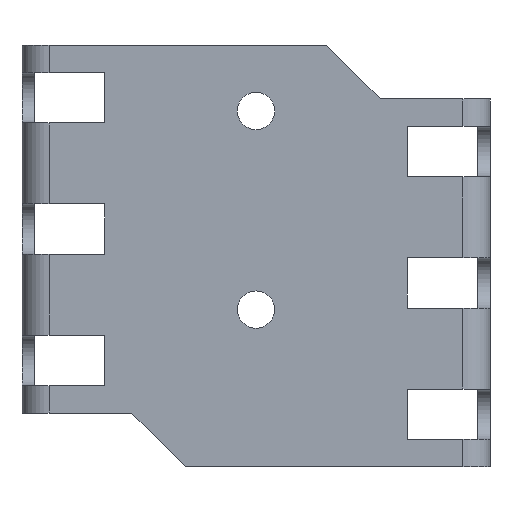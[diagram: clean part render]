
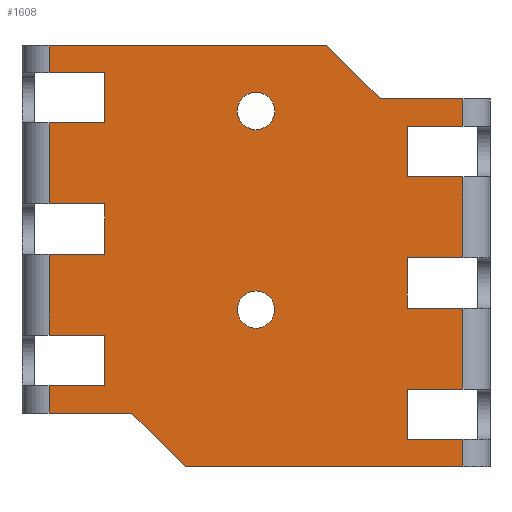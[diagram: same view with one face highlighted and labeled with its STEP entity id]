
A CAD part, left-side view. The second image highlights one B-rep face of the part: STEP entity #1608.
In plain terms, the highlighted planar face has unit normal (-1, 0, 0).
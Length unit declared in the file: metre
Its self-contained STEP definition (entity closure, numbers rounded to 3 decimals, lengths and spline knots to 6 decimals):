
#40=CIRCLE('',#1714,0.00225);
#41=CIRCLE('',#1715,0.00225);
#192=ORIENTED_EDGE('',*,*,#656,.T.);
#193=ORIENTED_EDGE('',*,*,#657,.T.);
#194=ORIENTED_EDGE('',*,*,#658,.F.);
#195=ORIENTED_EDGE('',*,*,#654,.T.);
#196=ORIENTED_EDGE('',*,*,#579,.F.);
#197=ORIENTED_EDGE('',*,*,#582,.F.);
#198=ORIENTED_EDGE('',*,*,#659,.F.);
#199=ORIENTED_EDGE('',*,*,#586,.T.);
#200=ORIENTED_EDGE('',*,*,#589,.F.);
#201=ORIENTED_EDGE('',*,*,#592,.F.);
#202=ORIENTED_EDGE('',*,*,#660,.F.);
#203=ORIENTED_EDGE('',*,*,#596,.F.);
#204=ORIENTED_EDGE('',*,*,#599,.F.);
#205=ORIENTED_EDGE('',*,*,#602,.T.);
#206=ORIENTED_EDGE('',*,*,#661,.T.);
#207=ORIENTED_EDGE('',*,*,#606,.T.);
#208=ORIENTED_EDGE('',*,*,#609,.F.);
#209=ORIENTED_EDGE('',*,*,#612,.F.);
#210=ORIENTED_EDGE('',*,*,#662,.T.);
#211=ORIENTED_EDGE('',*,*,#616,.T.);
#212=ORIENTED_EDGE('',*,*,#619,.F.);
#213=ORIENTED_EDGE('',*,*,#622,.F.);
#214=ORIENTED_EDGE('',*,*,#663,.T.);
#215=ORIENTED_EDGE('',*,*,#626,.T.);
#216=ORIENTED_EDGE('',*,*,#629,.F.);
#217=ORIENTED_EDGE('',*,*,#632,.F.);
#218=ORIENTED_EDGE('',*,*,#664,.T.);
#219=ORIENTED_EDGE('',*,*,#636,.F.);
#220=ORIENTED_EDGE('',*,*,#639,.F.);
#221=ORIENTED_EDGE('',*,*,#642,.F.);
#222=ORIENTED_EDGE('',*,*,#665,.F.);
#223=ORIENTED_EDGE('',*,*,#646,.T.);
#224=ORIENTED_EDGE('',*,*,#649,.F.);
#225=ORIENTED_EDGE('',*,*,#652,.F.);
#579=EDGE_CURVE('',#819,#817,#959,.F.);
#582=EDGE_CURVE('',#821,#819,#962,.T.);
#586=EDGE_CURVE('',#823,#825,#966,.T.);
#589=EDGE_CURVE('',#827,#825,#969,.F.);
#592=EDGE_CURVE('',#829,#827,#972,.T.);
#596=EDGE_CURVE('',#833,#831,#976,.F.);
#599=EDGE_CURVE('',#835,#833,#979,.T.);
#602=EDGE_CURVE('',#835,#837,#982,.T.);
#606=EDGE_CURVE('',#839,#841,#986,.F.);
#609=EDGE_CURVE('',#843,#841,#989,.T.);
#612=EDGE_CURVE('',#845,#843,#992,.F.);
#616=EDGE_CURVE('',#847,#849,#996,.F.);
#619=EDGE_CURVE('',#851,#849,#999,.T.);
#622=EDGE_CURVE('',#853,#851,#1002,.F.);
#626=EDGE_CURVE('',#855,#857,#1006,.F.);
#629=EDGE_CURVE('',#859,#857,#1009,.T.);
#632=EDGE_CURVE('',#861,#859,#1012,.F.);
#636=EDGE_CURVE('',#865,#863,#1016,.T.);
#639=EDGE_CURVE('',#867,#865,#1019,.T.);
#642=EDGE_CURVE('',#869,#867,#1022,.T.);
#646=EDGE_CURVE('',#871,#873,#1026,.T.);
#649=EDGE_CURVE('',#875,#873,#1029,.F.);
#652=EDGE_CURVE('',#877,#875,#1032,.T.);
#654=EDGE_CURVE('',#879,#817,#1034,.T.);
#656=EDGE_CURVE('',#880,#880,#40,.F.);
#657=EDGE_CURVE('',#881,#881,#41,.F.);
#658=EDGE_CURVE('',#879,#877,#1036,.F.);
#659=EDGE_CURVE('',#823,#821,#1037,.F.);
#660=EDGE_CURVE('',#831,#829,#1038,.F.);
#661=EDGE_CURVE('',#837,#839,#1039,.T.);
#662=EDGE_CURVE('',#845,#847,#1040,.T.);
#663=EDGE_CURVE('',#853,#855,#1041,.T.);
#664=EDGE_CURVE('',#861,#863,#1042,.T.);
#665=EDGE_CURVE('',#871,#869,#1043,.F.);
#817=VERTEX_POINT('',#2323);
#819=VERTEX_POINT('',#2327);
#821=VERTEX_POINT('',#2333);
#823=VERTEX_POINT('',#2338);
#825=VERTEX_POINT('',#2342);
#827=VERTEX_POINT('',#2348);
#829=VERTEX_POINT('',#2354);
#831=VERTEX_POINT('',#2359);
#833=VERTEX_POINT('',#2363);
#835=VERTEX_POINT('',#2369);
#837=VERTEX_POINT('',#2375);
#839=VERTEX_POINT('',#2380);
#841=VERTEX_POINT('',#2384);
#843=VERTEX_POINT('',#2390);
#845=VERTEX_POINT('',#2396);
#847=VERTEX_POINT('',#2401);
#849=VERTEX_POINT('',#2405);
#851=VERTEX_POINT('',#2411);
#853=VERTEX_POINT('',#2417);
#855=VERTEX_POINT('',#2422);
#857=VERTEX_POINT('',#2426);
#859=VERTEX_POINT('',#2432);
#861=VERTEX_POINT('',#2438);
#863=VERTEX_POINT('',#2443);
#865=VERTEX_POINT('',#2447);
#867=VERTEX_POINT('',#2453);
#869=VERTEX_POINT('',#2459);
#871=VERTEX_POINT('',#2464);
#873=VERTEX_POINT('',#2468);
#875=VERTEX_POINT('',#2474);
#877=VERTEX_POINT('',#2480);
#879=VERTEX_POINT('',#2486);
#880=VERTEX_POINT('',#2490);
#881=VERTEX_POINT('',#2492);
#959=LINE('',#2328,#1143);
#962=LINE('',#2334,#1146);
#966=LINE('',#2343,#1150);
#969=LINE('',#2349,#1153);
#972=LINE('',#2355,#1156);
#976=LINE('',#2364,#1160);
#979=LINE('',#2370,#1163);
#982=LINE('',#2376,#1166);
#986=LINE('',#2385,#1170);
#989=LINE('',#2391,#1173);
#992=LINE('',#2397,#1176);
#996=LINE('',#2406,#1180);
#999=LINE('',#2412,#1183);
#1002=LINE('',#2418,#1186);
#1006=LINE('',#2427,#1190);
#1009=LINE('',#2433,#1193);
#1012=LINE('',#2439,#1196);
#1016=LINE('',#2448,#1200);
#1019=LINE('',#2454,#1203);
#1022=LINE('',#2460,#1206);
#1026=LINE('',#2469,#1210);
#1029=LINE('',#2475,#1213);
#1032=LINE('',#2481,#1216);
#1034=LINE('',#2485,#1218);
#1036=LINE('',#2493,#1220);
#1037=LINE('',#2494,#1221);
#1038=LINE('',#2495,#1222);
#1039=LINE('',#2496,#1223);
#1040=LINE('',#2497,#1224);
#1041=LINE('',#2498,#1225);
#1042=LINE('',#2499,#1226);
#1043=LINE('',#2500,#1227);
#1143=VECTOR('',#1844,1.);
#1146=VECTOR('',#1849,1.);
#1150=VECTOR('',#1855,1.);
#1153=VECTOR('',#1860,1.);
#1156=VECTOR('',#1865,1.);
#1160=VECTOR('',#1871,1.);
#1163=VECTOR('',#1876,1.);
#1166=VECTOR('',#1881,1.);
#1170=VECTOR('',#1887,1.);
#1173=VECTOR('',#1892,1.);
#1176=VECTOR('',#1897,1.);
#1180=VECTOR('',#1903,1.);
#1183=VECTOR('',#1908,1.);
#1186=VECTOR('',#1913,1.);
#1190=VECTOR('',#1919,1.);
#1193=VECTOR('',#1924,1.);
#1196=VECTOR('',#1929,1.);
#1200=VECTOR('',#1935,1.);
#1203=VECTOR('',#1940,1.);
#1206=VECTOR('',#1945,1.);
#1210=VECTOR('',#1951,1.);
#1213=VECTOR('',#1956,1.);
#1216=VECTOR('',#1961,1.);
#1218=VECTOR('',#1965,1.);
#1220=VECTOR('',#1973,1.);
#1221=VECTOR('',#1974,1.);
#1222=VECTOR('',#1975,1.);
#1223=VECTOR('',#1976,1.);
#1224=VECTOR('',#1977,1.);
#1225=VECTOR('',#1978,1.);
#1226=VECTOR('',#1979,1.);
#1227=VECTOR('',#1980,1.);
#1348=EDGE_LOOP('',(#192));
#1349=EDGE_LOOP('',(#193));
#1350=EDGE_LOOP('',(#194,#195,#196,#197,#198,#199,#200,#201,#202,#203,#204,
#205,#206,#207,#208,#209,#210,#211,#212,#213,#214,#215,#216,#217,#218,#219,
#220,#221,#222,#223,#224,#225));
#1446=FACE_BOUND('',#1348,.T.);
#1447=FACE_BOUND('',#1349,.T.);
#1448=FACE_BOUND('',#1350,.T.);
#1544=PLANE('',#1713);
#1608=ADVANCED_FACE('',(#1446,#1447,#1448),#1544,.T.);
#1713=AXIS2_PLACEMENT_3D('',#2488,#1967,#1968);
#1714=AXIS2_PLACEMENT_3D('',#2489,#1969,#1970);
#1715=AXIS2_PLACEMENT_3D('',#2491,#1971,#1972);
#1844=DIRECTION('',(0.,0.,-1.));
#1849=DIRECTION('',(0.,-1.,0.));
#1855=DIRECTION('',(0.,-1.,0.));
#1860=DIRECTION('',(0.,0.,-1.));
#1865=DIRECTION('',(0.,-1.,0.));
#1871=DIRECTION('',(0.,-1.,0.));
#1876=DIRECTION('',(0.,0.707,0.707));
#1881=DIRECTION('',(0.,-1.,0.));
#1887=DIRECTION('',(0.,-1.,0.));
#1892=DIRECTION('',(0.,0.,-1.));
#1897=DIRECTION('',(0.,-1.,0.));
#1903=DIRECTION('',(0.,-1.,0.));
#1908=DIRECTION('',(0.,0.,-1.));
#1913=DIRECTION('',(0.,-1.,0.));
#1919=DIRECTION('',(0.,-1.,0.));
#1924=DIRECTION('',(0.,0.,-1.));
#1929=DIRECTION('',(0.,-1.,0.));
#1935=DIRECTION('',(0.,-1.,0.));
#1940=DIRECTION('',(0.,-0.707,-0.707));
#1945=DIRECTION('',(0.,-1.,0.));
#1951=DIRECTION('',(0.,-1.,0.));
#1956=DIRECTION('',(0.,0.,-1.));
#1961=DIRECTION('',(0.,-1.,0.));
#1965=DIRECTION('',(0.,-1.,0.));
#1967=DIRECTION('',(-1.,0.,0.));
#1968=DIRECTION('',(0.,0.,-1.));
#1969=DIRECTION('',(-1.,0.,0.));
#1970=DIRECTION('',(0.,0.,1.));
#1971=DIRECTION('',(-1.,0.,0.));
#1972=DIRECTION('',(0.,0.,1.));
#1973=DIRECTION('',(0.,0.,-1.));
#1974=DIRECTION('',(0.,0.,-1.));
#1975=DIRECTION('',(0.,0.,-1.));
#1976=DIRECTION('',(0.,0.,1.));
#1977=DIRECTION('',(0.,0.,1.));
#1978=DIRECTION('',(0.,0.,1.));
#1979=DIRECTION('',(0.,0.,1.));
#1980=DIRECTION('',(0.,0.,-1.));
#2323=CARTESIAN_POINT('',(0.0185,-0.006722,0.031775));
#2327=CARTESIAN_POINT('',(0.0185,-0.006722,0.025675));
#2328=CARTESIAN_POINT('',(0.0185,-0.006722,0.017627));
#2333=CARTESIAN_POINT('',(0.0185,0.,0.025675));
#2334=CARTESIAN_POINT('',(0.0185,0.,0.025675));
#2338=CARTESIAN_POINT('',(0.0185,0.,0.0159));
#2342=CARTESIAN_POINT('',(0.0185,-0.006722,0.0159));
#2343=CARTESIAN_POINT('',(0.0185,0.,0.0159));
#2348=CARTESIAN_POINT('',(0.0185,-0.006722,0.0098));
#2349=CARTESIAN_POINT('',(0.0185,-0.006722,0.017627));
#2354=CARTESIAN_POINT('',(0.0185,0.,0.0098));
#2355=CARTESIAN_POINT('',(0.0185,0.,0.0098));
#2359=CARTESIAN_POINT('',(0.0185,0.,0.0065));
#2363=CARTESIAN_POINT('',(0.0185,-0.01,0.0065));
#2364=CARTESIAN_POINT('',(0.0185,0.,0.0065));
#2369=CARTESIAN_POINT('',(0.0185,-0.0165,0.));
#2370=CARTESIAN_POINT('',(0.0185,-0.01325,0.00325));
#2375=CARTESIAN_POINT('',(0.0185,-0.05,0.));
#2376=CARTESIAN_POINT('',(0.0185,0.,0.));
#2380=CARTESIAN_POINT('',(0.0185,-0.05,0.0033));
#2384=CARTESIAN_POINT('',(0.0185,-0.043278,0.0033));
#2385=CARTESIAN_POINT('',(0.0185,0.,0.0033));
#2390=CARTESIAN_POINT('',(0.0185,-0.043278,0.0094));
#2391=CARTESIAN_POINT('',(0.0185,-0.043278,0.017627));
#2396=CARTESIAN_POINT('',(0.0185,-0.05,0.0094));
#2397=CARTESIAN_POINT('',(0.0185,0.,0.0094));
#2401=CARTESIAN_POINT('',(0.0185,-0.05,0.019175));
#2405=CARTESIAN_POINT('',(0.0185,-0.043278,0.019175));
#2406=CARTESIAN_POINT('',(0.0185,0.,0.019175));
#2411=CARTESIAN_POINT('',(0.0185,-0.043278,0.025275));
#2412=CARTESIAN_POINT('',(0.0185,-0.043278,0.017627));
#2417=CARTESIAN_POINT('',(0.0185,-0.05,0.025275));
#2418=CARTESIAN_POINT('',(0.0185,0.,0.025275));
#2422=CARTESIAN_POINT('',(0.0185,-0.05,0.03505));
#2426=CARTESIAN_POINT('',(0.0185,-0.043278,0.03505));
#2427=CARTESIAN_POINT('',(0.0185,0.,0.03505));
#2432=CARTESIAN_POINT('',(0.0185,-0.043278,0.04115));
#2433=CARTESIAN_POINT('',(0.0185,-0.043278,0.017627));
#2438=CARTESIAN_POINT('',(0.0185,-0.05,0.04115));
#2439=CARTESIAN_POINT('',(0.0185,0.,0.04115));
#2443=CARTESIAN_POINT('',(0.0185,-0.05,0.04445));
#2447=CARTESIAN_POINT('',(0.0185,-0.04,0.04445));
#2448=CARTESIAN_POINT('',(0.0185,0.,0.04445));
#2453=CARTESIAN_POINT('',(0.0185,-0.0335,0.05095));
#2454=CARTESIAN_POINT('',(0.0185,-0.03675,0.0477));
#2459=CARTESIAN_POINT('',(0.0185,0.,0.05095));
#2460=CARTESIAN_POINT('',(0.0185,0.,0.05095));
#2464=CARTESIAN_POINT('',(0.0185,0.,0.04765));
#2468=CARTESIAN_POINT('',(0.0185,-0.006722,0.04765));
#2469=CARTESIAN_POINT('',(0.0185,0.,0.04765));
#2474=CARTESIAN_POINT('',(0.0185,-0.006722,0.04155));
#2475=CARTESIAN_POINT('',(0.0185,-0.006722,0.017627));
#2480=CARTESIAN_POINT('',(0.0185,0.,0.04155));
#2481=CARTESIAN_POINT('',(0.0185,0.,0.04155));
#2485=CARTESIAN_POINT('',(0.0185,0.,0.031775));
#2486=CARTESIAN_POINT('',(0.0185,0.,0.031775));
#2488=CARTESIAN_POINT('',(0.0185,0.,0.017627));
#2489=CARTESIAN_POINT('',(0.0185,-0.025,0.043));
#2490=CARTESIAN_POINT('',(0.0185,-0.025,0.04525));
#2491=CARTESIAN_POINT('',(0.0185,-0.025,0.019));
#2492=CARTESIAN_POINT('',(0.0185,-0.025,0.02125));
#2493=CARTESIAN_POINT('',(0.0185,0.,0.017627));
#2494=CARTESIAN_POINT('',(0.0185,0.,0.017627));
#2495=CARTESIAN_POINT('',(0.0185,0.,0.017627));
#2496=CARTESIAN_POINT('',(0.0185,-0.05,0.017627));
#2497=CARTESIAN_POINT('',(0.0185,-0.05,0.017627));
#2498=CARTESIAN_POINT('',(0.0185,-0.05,0.017627));
#2499=CARTESIAN_POINT('',(0.0185,-0.05,0.017627));
#2500=CARTESIAN_POINT('',(0.0185,0.,0.017627));
